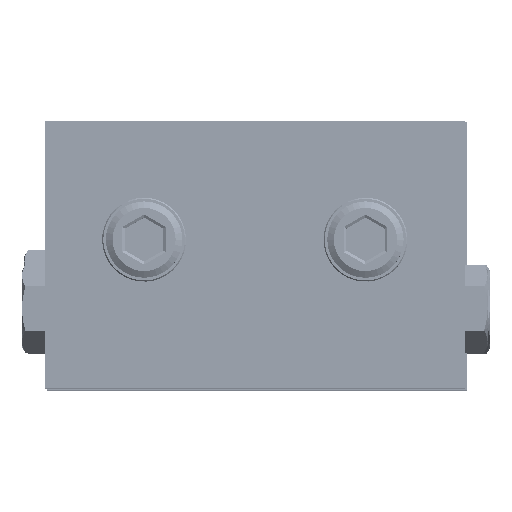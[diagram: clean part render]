
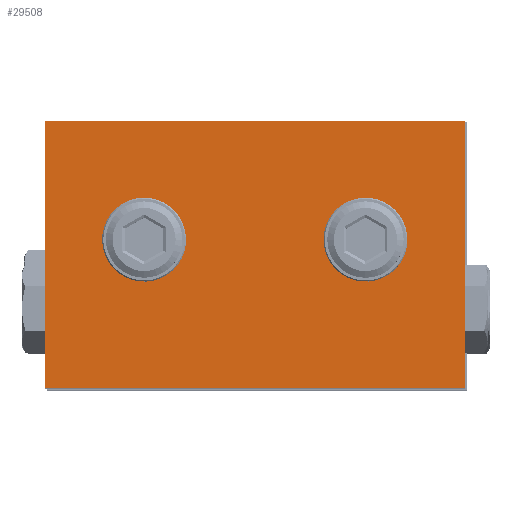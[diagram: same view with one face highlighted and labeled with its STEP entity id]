
A CAD part, top view. The second image highlights one B-rep face of the part: STEP entity #29508.
In plain terms, the highlighted planar face has unit normal (0, 0, 1) as drawn and (0, 0, -1) by its records, which use the part's own axes.
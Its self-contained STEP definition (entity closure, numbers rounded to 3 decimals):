
#1592 = DIRECTION ( 'NONE',  ( 1., 0., 0. ) ) ;
#1829 = DIRECTION ( 'NONE',  ( 1., 0., 0. ) ) ;
#2770 = CARTESIAN_POINT ( 'NONE',  ( 27.5, -35., -4.85 ) ) ;
#3538 = DIRECTION ( 'NONE',  ( 0., 1., 0. ) ) ;
#4129 = FACE_BOUND ( 'NONE', #15678, .T. ) ;
#5061 = CIRCLE ( 'NONE', #10917, 3.1 ) ;
#5327 = VERTEX_POINT ( 'NONE', #2770 ) ;
#6490 = CARTESIAN_POINT ( 'NONE',  ( 14.5, -15.5, -4.85 ) ) ;
#7075 = CARTESIAN_POINT ( 'NONE',  ( 27.5, 0., -4.85 ) ) ;
#8869 = EDGE_CURVE ( 'NONE', #20780, #19916, #21038, .T. ) ;
#9143 = CARTESIAN_POINT ( 'NONE',  ( 11.4, -15.5, -4.85 ) ) ;
#9278 = DIRECTION ( 'NONE',  ( 0., -1., 0. ) ) ;
#10917 = AXIS2_PLACEMENT_3D ( 'NONE', #6490, #13680, #25251 ) ;
#11412 = LINE ( 'NONE', #22869, #17927 ) ;
#11699 = ORIENTED_EDGE ( 'NONE', *, *, #11736, .F. ) ;
#11736 = EDGE_CURVE ( 'NONE', #20460, #20780, #23909, .T. ) ;
#12252 = VECTOR ( 'NONE', #9278, 1000. ) ;
#13451 = PLANE ( 'NONE',  #21810 ) ;
#13604 = EDGE_LOOP ( 'NONE', ( #13975, #11699, #27495, #20666 ) ) ;
#13680 = DIRECTION ( 'NONE',  ( 0., 0., -1. ) ) ;
#13975 = ORIENTED_EDGE ( 'NONE', *, *, #8869, .F. ) ;
#15678 = EDGE_LOOP ( 'NONE', ( #27427 ) ) ;
#15744 = FACE_OUTER_BOUND ( 'NONE', #13604, .T. ) ;
#16047 = VERTEX_POINT ( 'NONE', #18791 ) ;
#17051 = ORIENTED_EDGE ( 'NONE', *, *, #17972, .F. ) ;
#17406 = EDGE_CURVE ( 'NONE', #29755, #29755, #5061, .T. ) ;
#17927 = VECTOR ( 'NONE', #21589, 1000. ) ;
#17972 = EDGE_CURVE ( 'NONE', #16047, #16047, #25545, .T. ) ;
#18482 = CARTESIAN_POINT ( 'NONE',  ( -27.5, 0., -4.85 ) ) ;
#18791 = CARTESIAN_POINT ( 'NONE',  ( -11.4, -15.5, -4.85 ) ) ;
#18901 = CARTESIAN_POINT ( 'NONE',  ( -27.5, 0., -4.85 ) ) ;
#18993 = VECTOR ( 'NONE', #19187, 1000. ) ;
#19187 = DIRECTION ( 'NONE',  ( -1., 0., 0. ) ) ;
#19274 = EDGE_CURVE ( 'NONE', #5327, #20460, #21981, .T. ) ;
#19916 = VERTEX_POINT ( 'NONE', #22265 ) ;
#20367 = EDGE_LOOP ( 'NONE', ( #17051 ) ) ;
#20446 = FACE_BOUND ( 'NONE', #20367, .T. ) ;
#20460 = VERTEX_POINT ( 'NONE', #7075 ) ;
#20666 = ORIENTED_EDGE ( 'NONE', *, *, #27747, .F. ) ;
#20676 = AXIS2_PLACEMENT_3D ( 'NONE', #24335, #22507, #1592 ) ;
#20780 = VERTEX_POINT ( 'NONE', #18901 ) ;
#21038 = LINE ( 'NONE', #18482, #12252 ) ;
#21589 = DIRECTION ( 'NONE',  ( 1., 0., 0. ) ) ;
#21810 = AXIS2_PLACEMENT_3D ( 'NONE', #22741, #27167, #1829 ) ;
#21981 = LINE ( 'NONE', #24423, #29000 ) ;
#22265 = CARTESIAN_POINT ( 'NONE',  ( -27.5, -35., -4.85 ) ) ;
#22507 = DIRECTION ( 'NONE',  ( 0., 0., -1. ) ) ;
#22741 = CARTESIAN_POINT ( 'NONE',  ( 0., 0., -4.85 ) ) ;
#22869 = CARTESIAN_POINT ( 'NONE',  ( 0., -35., -4.85 ) ) ;
#23909 = LINE ( 'NONE', #28624, #18993 ) ;
#24335 = CARTESIAN_POINT ( 'NONE',  ( -14.5, -15.5, -4.85 ) ) ;
#24423 = CARTESIAN_POINT ( 'NONE',  ( 27.5, 0., -4.85 ) ) ;
#25251 = DIRECTION ( 'NONE',  ( -1., 0., 0. ) ) ;
#25545 = CIRCLE ( 'NONE', #20676, 3.1 ) ;
#27167 = DIRECTION ( 'NONE',  ( 0., 0., 1. ) ) ;
#27427 = ORIENTED_EDGE ( 'NONE', *, *, #17406, .F. ) ;
#27495 = ORIENTED_EDGE ( 'NONE', *, *, #19274, .F. ) ;
#27747 = EDGE_CURVE ( 'NONE', #19916, #5327, #11412, .T. ) ;
#28624 = CARTESIAN_POINT ( 'NONE',  ( 0., 0., -4.85 ) ) ;
#29000 = VECTOR ( 'NONE', #3538, 1000. ) ;
#29508 = ADVANCED_FACE ( 'NONE', ( #15744, #4129, #20446 ), #13451, .F. ) ;
#29755 = VERTEX_POINT ( 'NONE', #9143 ) ;
